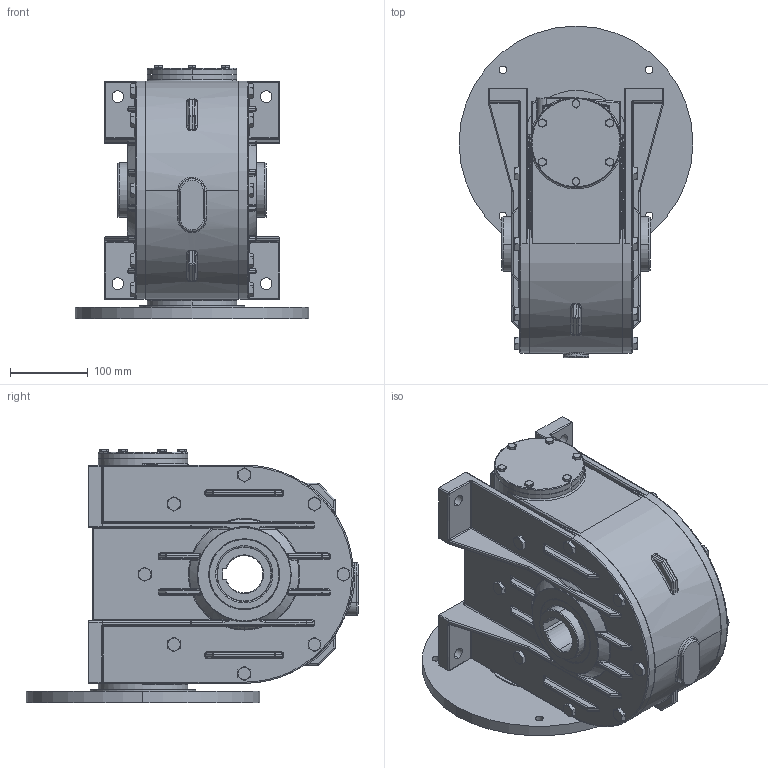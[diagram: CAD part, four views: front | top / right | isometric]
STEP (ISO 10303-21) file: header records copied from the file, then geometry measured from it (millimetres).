
FILE_DESCRIPTION (( 'STEP AP203' ), '1' );
FILE_NAME ('3F002468.STEP', '2012-07-24T06:31:20', ( 'Amministratore' ), ( 'SerteK sas' ), 'SwSTEP 2.0', 'SolidWorks 2009', '' );
FILE_SCHEMA (( 'CONFIG_CONTROL_DESIGN' ));
Length unit declared in the file: millimetre
Products named in the file (1): 3F002468
Bounding box: 300 x 426 x 325.55 mm (x, y, z)
Surface area: 1165374.3 mm2 (no closed solid volume)
Topology: 0 solids, 36 shells, 2335 faces, 5615 edges, 3405 vertices
Faces by surface type: cylinder 843, bspline 564, plane 531, cone 397
Entity records: 117856 total; most frequent: CARTESIAN_POINT 67849, ORIENTED_EDGE 11008, DIRECTION 9555, EDGE_CURVE 5524, AXIS2_PLACEMENT_3D 3912, VERTEX_POINT 3405, EDGE_LOOP 2571, FACE_OUTER_BOUND 2335
